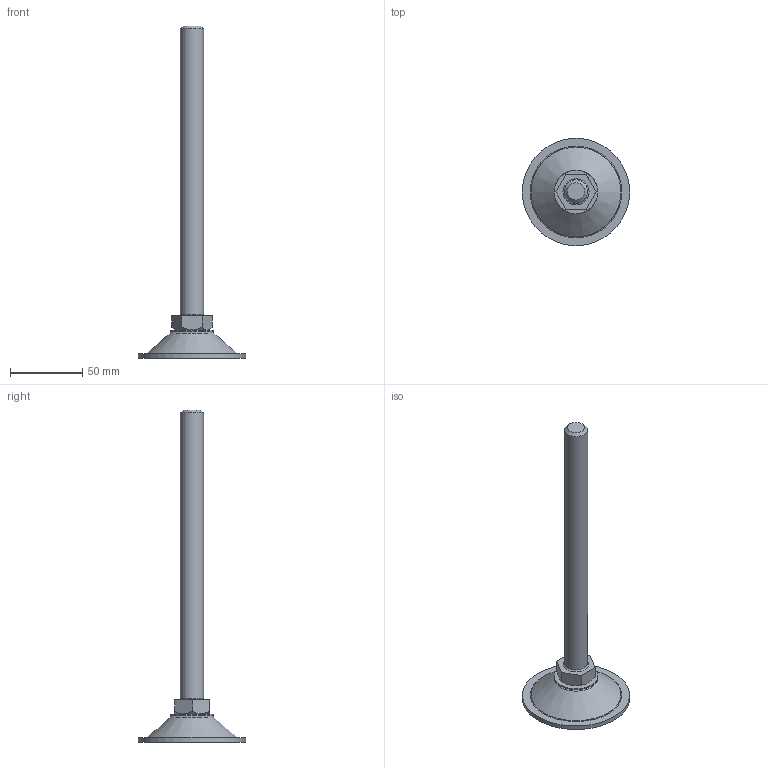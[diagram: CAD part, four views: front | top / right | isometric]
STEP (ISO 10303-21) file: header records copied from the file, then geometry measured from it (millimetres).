
FILE_DESCRIPTION(/* description */ (''),/* implementation_level */ '2;1');
FILE_NAME(/* name */ 'D:\조절자\PF\PF-M16-200L.stp',/* time_stamp */ '2016-03-14T14:55:21+09:00',/* author */ ('GS-DT-1-001'),/* organization */ (''),/* preprocessor_version */ 'ST-DEVELOPER v15.6',/* originating_system */ 'Autodesk Inventor LT ',/* authorisation */ '');
FILE_SCHEMA (('AUTOMOTIVE_DESIGN { 1 0 10303 214 3 1 1 }'));
Length unit declared in the file: millimetre
Products named in the file (1): PF-M16-200L
Bounding box: 74 x 74 x 229 mm (x, y, z)
Volume: 61670.2 mm3; surface area: 25021.6 mm2
Topology: 4 solids, 4 shells, 37 faces, 70 edges, 45 vertices
Faces by surface type: plane 18, cylinder 8, cone 6, torus 5
Full cylindrical faces by diameter (mm): 6.912 x1, 8 x1, 8.2 x1, 8.3 x1, 16 x2, 30 x1, 74 x1
Entity records: 815 total; most frequent: DIRECTION 144, CARTESIAN_POINT 136, ORIENTED_EDGE 92, AXIS2_PLACEMENT_3D 66, EDGE_LOOP 64, EDGE_CURVE 46, VERTEX_POINT 40, FACE_OUTER_BOUND 37
